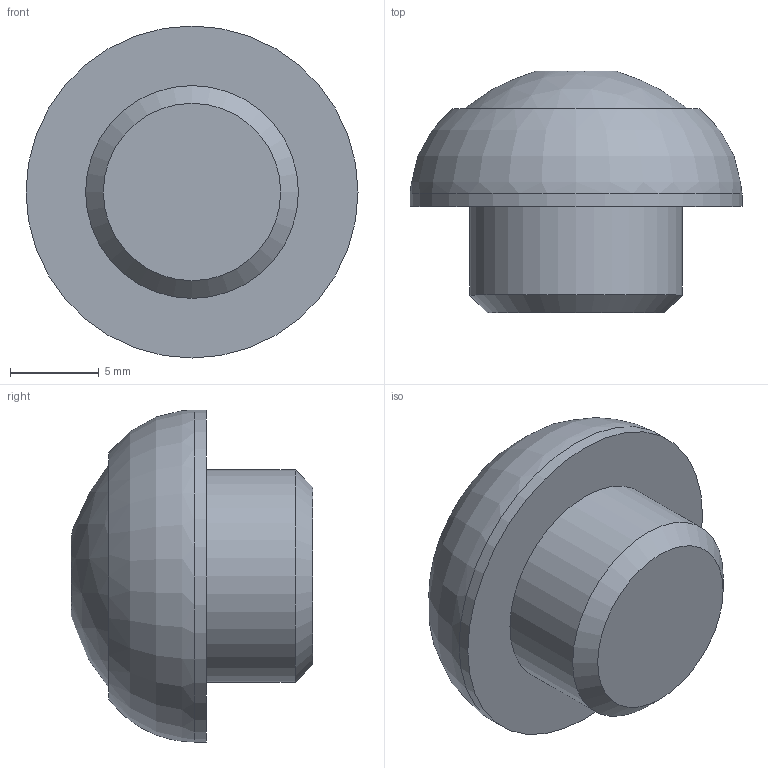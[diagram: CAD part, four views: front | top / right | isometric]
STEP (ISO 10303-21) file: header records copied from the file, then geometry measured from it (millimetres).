
FILE_DESCRIPTION(('FreeCAD Model'),'2;1');
FILE_NAME('Open CASCADE Shape Model','2023-05-06T18:44:57',('Author'),( ''),'Open CASCADE STEP processor 7.5','FreeCAD','Unknown');
FILE_SCHEMA(('AUTOMOTIVE_DESIGN { 1 0 10303 214 1 1 1 1 }'));
Length unit declared in the file: millimetre
Products named in the file (1): button_trigger
Bounding box: 18.72 x 13.63 x 18.72 mm (x, y, z)
Volume: 2012.3 mm3; surface area: 1591.8 mm2
Topology: 2 solids, 2 shells, 13 faces, 17 edges, 11 vertices
Faces by surface type: plane 6, cylinder 4, torus 1, cone 1, sphere 1
Full cylindrical faces by diameter (mm): 12 x1, 12.624 x1, 12.924 x1, 18.724 x1
Entity records: 419 total; most frequent: DIRECTION 50, CARTESIAN_POINT 36, AXIS2_PLACEMENT_3D 25, EDGE_LOOP 22, ORIENTED_EDGE 22, FACE_OUTER_BOUND 19, UNCERTAINTY_MEASURE_WITH_UNIT 16, PRESENTATION_LAYER_ASSIGNMENT 15
